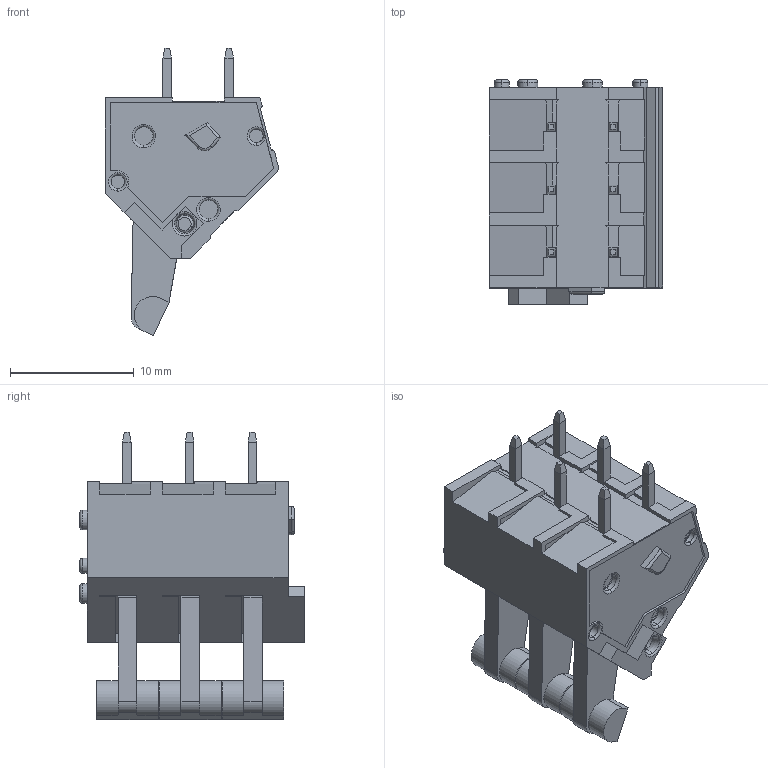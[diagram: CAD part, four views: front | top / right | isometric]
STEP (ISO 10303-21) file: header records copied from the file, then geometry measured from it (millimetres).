
FILE_DESCRIPTION((''),'2;1');
FILE_NAME('HT-03_SW0001','2019-05-13T',('zhenbing.lai'),(''),'CREO PARAMETRIC BY PTC INC, 2016260','CREO PARAMETRIC BY PTC INC, 2016260','');
FILE_SCHEMA(('CONFIG_CONTROL_DESIGN'));
Length unit declared in the file: millimetre
Products named in the file (1): HT-03_SW0001
Bounding box: 14 x 18.14 x 23.25 mm (x, y, z)
Volume: 2259 mm3; surface area: 1731.2 mm2
Topology: 1 solids, 4 shells, 458 faces, 1244 edges, 808 vertices
Faces by surface type: plane 329, cylinder 82, torus 27, cone 15, bspline 5
Entity records: 14644 total; most frequent: CARTESIAN_POINT 2926, ORIENTED_EDGE 2488, DIRECTION 2358, EDGE_CURVE 1244, VECTOR 950, LINE 950, VERTEX_POINT 808, AXIS2_PLACEMENT_3D 704
